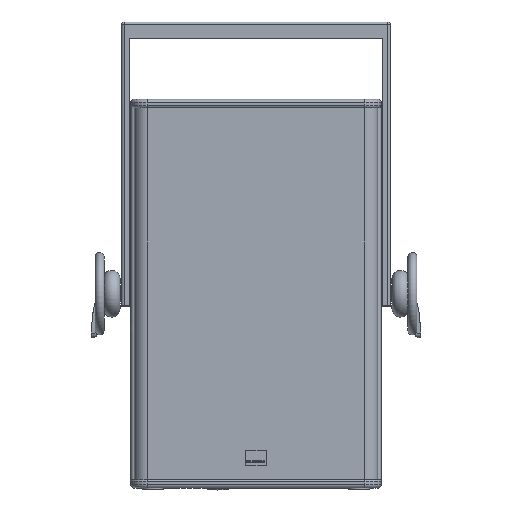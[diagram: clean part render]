
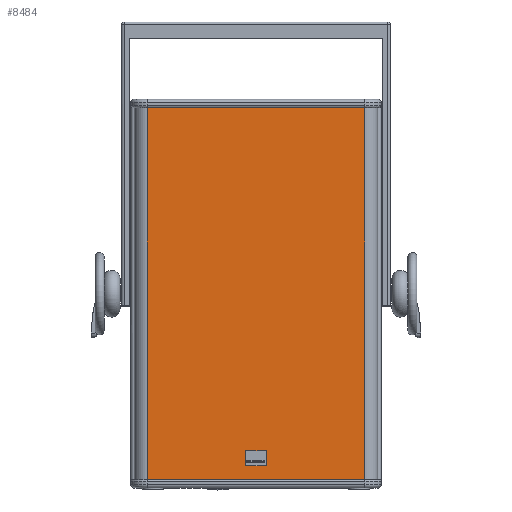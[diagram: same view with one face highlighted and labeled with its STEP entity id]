
A CAD part, top view. The second image highlights one B-rep face of the part: STEP entity #8484.
In plain terms, the highlighted planar face has unit normal (0, 0, 1) as drawn and (0, -1, 0) by its records, which use the part's own axes.
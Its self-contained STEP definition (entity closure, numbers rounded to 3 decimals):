
#8409 = VERTEX_POINT ( 'NONE', #31617 ) ;
#8410 = ORIENTED_EDGE ( 'NONE', *, *, #8483, .F. ) ;
#8411 = ORIENTED_EDGE ( 'NONE', *, *, #8412, .T. ) ;
#8412 = EDGE_CURVE ( 'NONE', #8431, #8413, #31616, .T. ) ;
#8413 = VERTEX_POINT ( 'NONE', #31612 ) ;
#8414 = ORIENTED_EDGE ( 'NONE', *, *, #8415, .F. ) ;
#8415 = EDGE_CURVE ( 'NONE', #8409, #8413, #31610, .T. ) ;
#8426 = VERTEX_POINT ( 'NONE', #31662 ) ;
#8431 = VERTEX_POINT ( 'NONE', #31656 ) ;
#8483 = EDGE_CURVE ( 'NONE', #8431, #8426, #31708, .T. ) ;
#8484 = ADVANCED_FACE ( 'NONE', ( #31703 ), #31702, .T. ) ;
#8485 = EDGE_LOOP ( 'NONE', ( #8486, #8410, #8411, #8414 ) ) ;
#8486 = ORIENTED_EDGE ( 'NONE', *, *, #8487, .F. ) ;
#8487 = EDGE_CURVE ( 'NONE', #8426, #8409, #31755, .T. ) ;
#31607 = DIRECTION ( 'NONE',  ( 0., 0., -1. ) ) ;
#31608 = VECTOR ( 'NONE', #31607, 1000. ) ;
#31609 = CARTESIAN_POINT ( 'NONE',  ( 420., 6.5, 1270. ) ) ;
#31610 = LINE ( 'NONE', #31609, #31608 ) ;
#31612 = CARTESIAN_POINT ( 'NONE',  ( 420., 6.5, 602. ) ) ;
#31613 = DIRECTION ( 'NONE',  ( 1., 0., 0. ) ) ;
#31614 = VECTOR ( 'NONE', #31613, 1000. ) ;
#31615 = CARTESIAN_POINT ( 'NONE',  ( 6.5, 6.5, 602. ) ) ;
#31616 = LINE ( 'NONE', #31615, #31614 ) ;
#31617 = CARTESIAN_POINT ( 'NONE',  ( 420., 6.5, 1270. ) ) ;
#31656 = CARTESIAN_POINT ( 'NONE',  ( 30., 6.5, 602. ) ) ;
#31662 = CARTESIAN_POINT ( 'NONE',  ( 30., 6.5, 1270. ) ) ;
#31701 = AXIS2_PLACEMENT_3D ( 'NONE', #31704, #31754, #31753 ) ;
#31702 = PLANE ( 'NONE',  #31701 ) ;
#31703 = FACE_OUTER_BOUND ( 'NONE', #8485, .T. ) ;
#31704 = CARTESIAN_POINT ( 'NONE',  ( 30., 6.5, 1270. ) ) ;
#31705 = DIRECTION ( 'NONE',  ( 0., 0., 1. ) ) ;
#31706 = VECTOR ( 'NONE', #31705, 1000. ) ;
#31707 = CARTESIAN_POINT ( 'NONE',  ( 30., 6.5, 1270. ) ) ;
#31708 = LINE ( 'NONE', #31707, #31706 ) ;
#31750 = DIRECTION ( 'NONE',  ( 1., 0., 0. ) ) ;
#31751 = VECTOR ( 'NONE', #31750, 1000. ) ;
#31752 = CARTESIAN_POINT ( 'NONE',  ( 225., 6.5, 1270. ) ) ;
#31753 = DIRECTION ( 'NONE',  ( 1., 0., 0. ) ) ;
#31754 = DIRECTION ( 'NONE',  ( 0., -1., 0. ) ) ;
#31755 = LINE ( 'NONE', #31752, #31751 ) ;
